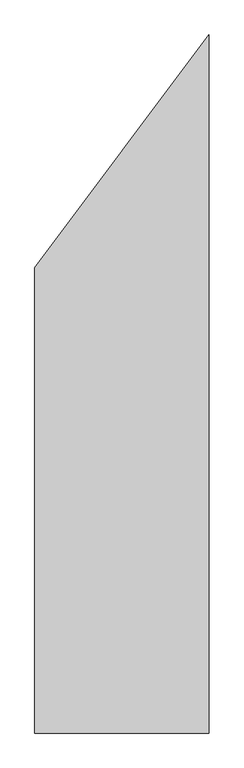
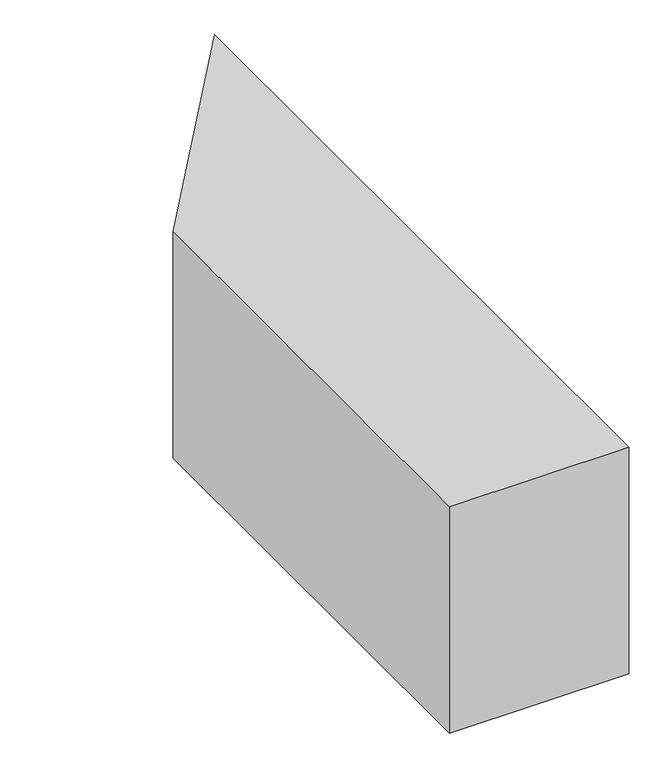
"""IFC4 building model written with IfcOpenShell, lengths in millimetres: duct fitting geometry, ADSK_ПереходникВоздуховодов_Прямоугольный1 : Стандартное 2."""

from ifc_helpers import new_model, si_unit, frame, origin, place, context, project, spatial, polyline, outline, extrude, source, transform, mapped, element, save


def duct_fitting_bb83dc0f(model_context):
    return source(origin(), model_context, "Body", "SweptSolid", [
        extrude(outline(polyline([(0.0, -400.0), (0.0, 400.0), (300.0, 800.0), (300.0, -400.0), (0.0, -400.0)])), frame((0.0, 0.0, -200.0), z_axis=(0.0, 0.0, 1.0), x_axis=(1.0, 0.0, 0.0)), (0.0, 0.0, 1.0), 400.0),
    ])


if __name__ == "__main__":
    model = new_model("IFC4")
    model_context = context("Model", 3, world=origin())
    ifc_project = project(units=[si_unit("LENGTHUNIT", "METRE", prefix="MILLI")], contexts=[model_context])
    site = spatial("IfcSite", under=ifc_project)
    building = spatial("IfcBuilding", under=site)
    placement = place(None, origin())
    duct_fitting_shape = duct_fitting_bb83dc0f(model_context)
    element("IfcDuctFitting", 1, ObjectType="ADSK_ПереходникВоздуховодов_Прямоугольный1 : Стандартное 2", at=placement, inside=building, context=model_context, shape_type="MappedRepresentation", body=[
        mapped(duct_fitting_shape, transform((0.0, 0.0, 0.0), x_axis=(1.0, 0.0, 0.0), y_axis=(0.0, 1.0, 0.0), z_axis=(0.0, 0.0, 1.0))),
    ])
    save(model, "model.ifc")
